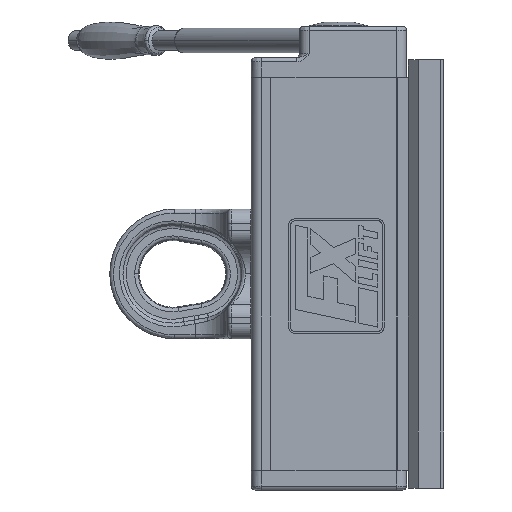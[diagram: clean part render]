
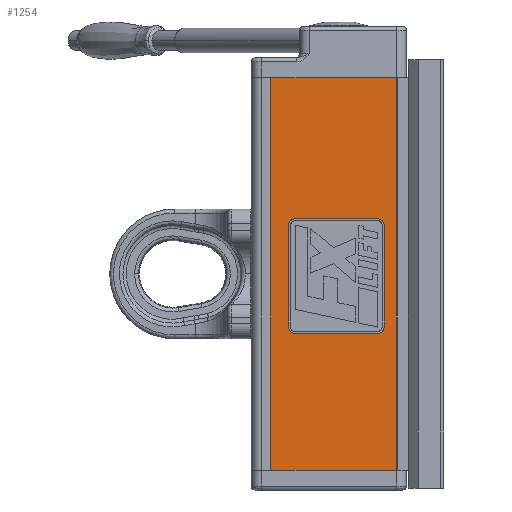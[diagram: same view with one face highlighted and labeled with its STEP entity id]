
A CAD part, left-side view. The second image highlights one B-rep face of the part: STEP entity #1254.
In plain terms, the highlighted planar face has unit normal (-1, 0, 0).
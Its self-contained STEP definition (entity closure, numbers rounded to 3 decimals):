
#1254=ADVANCED_FACE('NONE',(#2993,#2994),#2995,.F.);
#2993=FACE_OUTER_BOUND('',#8354,.T.);
#2994=FACE_BOUND('',#8355,.T.);
#2995=PLANE('',#8356);
#8354=EDGE_LOOP('',(#17091,#17092,#17093,#17094));
#8355=EDGE_LOOP('',(#17095,#17096,#17097,#17098,#17099,#17100,#17101,#17102));
#8356=AXIS2_PLACEMENT_3D('',#17103,#17104,#17105);
#17091=ORIENTED_EDGE('',*,*,#22285,.F.);
#17092=ORIENTED_EDGE('',*,*,#22115,.F.);
#17093=ORIENTED_EDGE('',*,*,#22286,.F.);
#17094=ORIENTED_EDGE('',*,*,#22049,.T.);
#17095=ORIENTED_EDGE('',*,*,#22287,.F.);
#17096=ORIENTED_EDGE('',*,*,#22288,.F.);
#17097=ORIENTED_EDGE('',*,*,#22289,.F.);
#17098=ORIENTED_EDGE('',*,*,#22290,.F.);
#17099=ORIENTED_EDGE('',*,*,#22291,.F.);
#17100=ORIENTED_EDGE('',*,*,#22292,.F.);
#17101=ORIENTED_EDGE('',*,*,#22293,.F.);
#17102=ORIENTED_EDGE('',*,*,#22294,.F.);
#17103=CARTESIAN_POINT('',(-112.5,0.,200.0));
#17104=DIRECTION('',(1.0,0.,0.));
#17105=DIRECTION('',(0.0,1.0,0.));
#22049=EDGE_CURVE('NONE',#25141,#25139,#25142,.T.);
#22115=EDGE_CURVE('NONE',#25228,#25230,#25231,.T.);
#22285=EDGE_CURVE('NONE',#25230,#25139,#25473,.T.);
#22286=EDGE_CURVE('NONE',#25141,#25228,#25474,.T.);
#22287=EDGE_CURVE('NONE',#25475,#25476,#25477,.T.);
#22288=EDGE_CURVE('NONE',#25478,#25475,#25479,.T.);
#22289=EDGE_CURVE('NONE',#25480,#25478,#25481,.T.);
#22290=EDGE_CURVE('NONE',#25482,#25480,#25483,.T.);
#22291=EDGE_CURVE('NONE',#25484,#25482,#25485,.T.);
#22292=EDGE_CURVE('NONE',#25486,#25484,#25487,.T.);
#22293=EDGE_CURVE('NONE',#25488,#25486,#25489,.T.);
#22294=EDGE_CURVE('NONE',#25476,#25488,#25490,.T.);
#25139=VERTEX_POINT('NONE',#36716);
#25141=VERTEX_POINT('NONE',#36719);
#25142=LINE('',#36720,#36721);
#25228=VERTEX_POINT('NONE',#36904);
#25230=VERTEX_POINT('NONE',#36907);
#25231=LINE('',#36908,#36909);
#25473=LINE('',#39907,#39908);
#25474=LINE('',#39909,#39910);
#25475=VERTEX_POINT('NONE',#39911);
#25476=VERTEX_POINT('NONE',#39912);
#25477=LINE('',#39913,#39914);
#25478=VERTEX_POINT('NONE',#39915);
#25479=B_SPLINE_CURVE_WITH_KNOTS('',3,(#39916,#39917,#39918,#39919),.UNSPECIFIED.,.F.,.F.,(4,4),(0.0,1.0),.UNSPECIFIED.);
#25480=VERTEX_POINT('NONE',#39920);
#25481=LINE('',#39921,#39922);
#25482=VERTEX_POINT('NONE',#39923);
#25483=B_SPLINE_CURVE_WITH_KNOTS('',3,(#39924,#39925,#39926,#39927),.UNSPECIFIED.,.F.,.F.,(4,4),(0.0,1.0),.UNSPECIFIED.);
#25484=VERTEX_POINT('NONE',#39928);
#25485=LINE('',#39929,#39930);
#25486=VERTEX_POINT('NONE',#39931);
#25487=B_SPLINE_CURVE_WITH_KNOTS('',3,(#39932,#39933,#39934,#39935),.UNSPECIFIED.,.F.,.F.,(4,4),(0.0,1.0),.UNSPECIFIED.);
#25488=VERTEX_POINT('NONE',#39936);
#25489=LINE('',#39937,#39938);
#25490=B_SPLINE_CURVE_WITH_KNOTS('',3,(#39939,#39940,#39941,#39942),.UNSPECIFIED.,.F.,.F.,(4,4),(0.0,1.0),.UNSPECIFIED.);
#36716=CARTESIAN_POINT('',(-112.5,-59.5,-200.0));
#36719=CARTESIAN_POINT('',(-112.5,69.0,-200.0));
#36720=CARTESIAN_POINT('',(-112.5,10.,-200.0));
#36721=VECTOR('',#48043,1000.0);
#36904=CARTESIAN_POINT('',(-112.5,69.0,200.0));
#36907=CARTESIAN_POINT('',(-112.5,-59.5,200.0));
#36908=CARTESIAN_POINT('',(-112.5,10.0,200.0));
#36909=VECTOR('',#48103,1000.0);
#39907=CARTESIAN_POINT('',(-112.5,-59.5,200.0));
#39908=VECTOR('',#48185,1000.0);
#39909=CARTESIAN_POINT('',(-112.5,69.0,200.0));
#39910=VECTOR('',#48186,1000.0);
#39911=CARTESIAN_POINT('',(-112.5,50.994,49.534));
#39912=CARTESIAN_POINT('',(-112.5,50.994,-54.099));
#39913=CARTESIAN_POINT('',(-112.5,50.994,200.0));
#39914=VECTOR('',#48187,1000.0);
#39915=CARTESIAN_POINT('',(-112.5,44.517,56.011));
#39916=CARTESIAN_POINT('',(-112.5,44.517,56.011));
#39917=CARTESIAN_POINT('',(-112.5,48.08,56.011));
#39918=CARTESIAN_POINT('',(-112.5,50.994,53.096));
#39919=CARTESIAN_POINT('',(-112.5,50.994,49.534));
#39920=CARTESIAN_POINT('',(-112.5,-39.684,56.011));
#39921=CARTESIAN_POINT('',(-112.5,0.,56.011));
#39922=VECTOR('',#48188,1000.0);
#39923=CARTESIAN_POINT('',(-112.5,-46.161,49.534));
#39924=CARTESIAN_POINT('',(-112.5,-46.161,49.534));
#39925=CARTESIAN_POINT('',(-112.5,-46.161,53.096));
#39926=CARTESIAN_POINT('',(-112.5,-43.246,56.011));
#39927=CARTESIAN_POINT('',(-112.5,-39.684,56.011));
#39928=CARTESIAN_POINT('',(-112.5,-46.161,-54.099));
#39929=CARTESIAN_POINT('',(-112.5,-46.161,200.0));
#39930=VECTOR('',#48189,1000.0);
#39931=CARTESIAN_POINT('',(-112.5,-39.684,-60.575));
#39932=CARTESIAN_POINT('',(-112.5,-39.684,-60.575));
#39933=CARTESIAN_POINT('',(-112.5,-43.246,-60.575));
#39934=CARTESIAN_POINT('',(-112.5,-46.161,-57.661));
#39935=CARTESIAN_POINT('',(-112.5,-46.161,-54.099));
#39936=CARTESIAN_POINT('',(-112.5,44.517,-60.575));
#39937=CARTESIAN_POINT('',(-112.5,0.,-60.575));
#39938=VECTOR('',#48190,1000.0);
#39939=CARTESIAN_POINT('',(-112.5,50.994,-54.099));
#39940=CARTESIAN_POINT('',(-112.5,50.994,-57.661));
#39941=CARTESIAN_POINT('',(-112.5,48.08,-60.575));
#39942=CARTESIAN_POINT('',(-112.5,44.517,-60.575));
#48043=DIRECTION('',(-0.0,-1.0,-0.0));
#48103=DIRECTION('',(-0.0,-1.0,-0.0));
#48185=DIRECTION('',(-0.0,-0.0,-1.0));
#48186=DIRECTION('',(0.0,0.0,1.0));
#48187=DIRECTION('',(-0.0,-0.0,-1.0));
#48188=DIRECTION('',(0.,1.0,0.0));
#48189=DIRECTION('',(0.0,0.0,1.0));
#48190=DIRECTION('',(0.,-1.0,-0.0));
